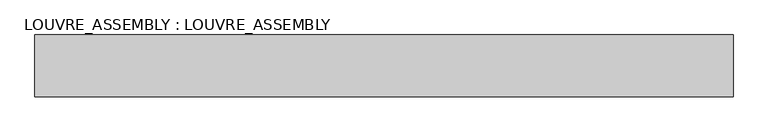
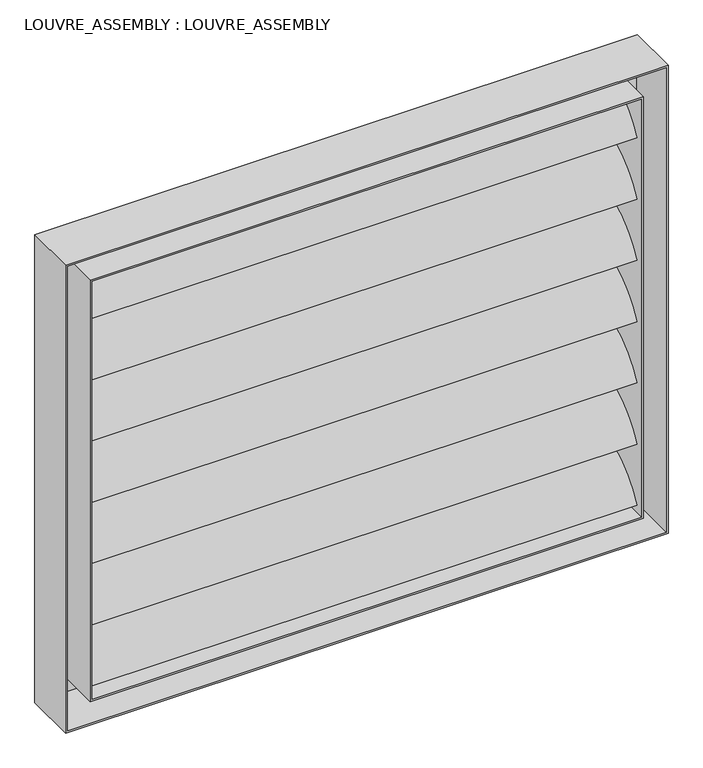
"""IFC4 building model written with IfcOpenShell, lengths in millimetres: plate geometry, LOUVRE_ASSEMBLY : LOUVRE_ASSEMBLY."""

import ifcopenshell
import ifcopenshell.guid

model = None  # the IFC model being written
_history = None  # IfcOwnerHistory: only IFC2X3 demands one
_inside = {}  # id of a spatial element -> (the spatial element, [elements in it])
_under = {}  # id of a project, library or spatial element -> (it, [spatial elements below it])
_declared = {}  # id of a project -> (the project, [libraries it declares])
_typed = {}  # id of a type object -> (the type object, [elements of that type])
_made_of = {}  # id of a material, layer set ... -> (it, [elements and type objects made of it])


def new_model(schema):
    """Start an empty IFC model of exactly this schema.

    Asked for "IFC4X3", IfcOpenShell would pick the latest addendum, in which some entities
    have other attributes; the version numbers below select the first issue.
    IFC2X3 requires an IfcOwnerHistory on every rooted entity: one is made here for all.
    """
    global model, _history
    if schema == "IFC4X3":
        model = ifcopenshell.file(schema_version=(4, 3, 0, 0))
    else:
        model = ifcopenshell.file(schema=schema)
    _inside.clear()
    _under.clear()
    _declared.clear()
    _typed.clear()
    _made_of.clear()
    _history = None
    if model.schema == "IFC2X3":
        org = make("IfcOrganization", Name="unknown")
        user = make(
            "IfcPersonAndOrganization",
            ThePerson=make("IfcPerson", FamilyName="unknown"),
            TheOrganization=org,
        )
        app = make(
            "IfcApplication",
            ApplicationDeveloper=org,
            Version="unknown",
            ApplicationFullName="unknown",
            ApplicationIdentifier="unknown",
        )
        _history = make(
            "IfcOwnerHistory",
            OwningUser=user,
            OwningApplication=app,
            ChangeAction="ADDED",
            CreationDate=0,
        )
    return model


def make(cls, **values):
    """One entity of the class cls with the attributes given. An attribute that is None is left unset."""
    return model.create_entity(
        cls, **{name: value for name, value in values.items() if value is not None}
    )


def rooted(cls, **values):
    """An entity with a GlobalId (a new one), such as an element, a storey or a relation."""
    return make(cls, GlobalId=ifcopenshell.guid.new(), OwnerHistory=_history, **values)


def si_unit(unit_type, name, prefix=None):
    """IfcSIUnit, for example si_unit("LENGTHUNIT", "METRE", prefix="MILLI")."""
    return make("IfcSIUnit", UnitType=unit_type, Prefix=prefix, Name=name)


def assignment(units):
    """IfcUnitAssignment: the units of a project."""
    return None if units is None else make("IfcUnitAssignment", Units=units)


def point(xyz):
    """IfcCartesianPoint."""
    return None if xyz is None else make("IfcCartesianPoint", Coordinates=xyz)


def direction(xyz):
    """IfcDirection."""
    return None if xyz is None else make("IfcDirection", DirectionRatios=xyz)


def frame(location, z_axis=None, x_axis=None):
    """IfcAxis2Placement3D, a coordinate frame: its origin and axes. An axis left out is left unset."""
    return make(
        "IfcAxis2Placement3D",
        Location=point(location),
        Axis=direction(z_axis),
        RefDirection=direction(x_axis),
    )


def frame_2d(location, x_axis=None):
    """IfcAxis2Placement2D, a coordinate frame in the plane: its origin and x axis."""
    return make(
        "IfcAxis2Placement2D", Location=point(location), RefDirection=direction(x_axis)
    )


def origin():
    """The frame at (0, 0, 0) with its axes left unset."""
    return frame((0.0, 0.0, 0.0))


def place(relative_to, where):
    """IfcLocalPlacement: puts the frame where relative to a parent placement (None: the world)."""
    return make(
        "IfcLocalPlacement", PlacementRelTo=relative_to, RelativePlacement=where
    )


def context(
    kind, dimensions, precision=None, world=None, true_north=None, identifier=None
):
    """IfcGeometricRepresentationContext, for example the 3D "Model" context."""
    return make(
        "IfcGeometricRepresentationContext",
        ContextIdentifier=identifier,
        ContextType=kind,
        CoordinateSpaceDimension=dimensions,
        Precision=precision,
        WorldCoordinateSystem=world,
        TrueNorth=true_north,
    )


def project(units=None, contexts=None):
    """IfcProject with its units and contexts."""
    return rooted(
        "IfcProject",
        Name="project",
        RepresentationContexts=contexts,
        UnitsInContext=assignment(units),
    )


def spatial(cls, under=None, at=None, **own):
    """A site, building, storey or space (cls), placed at a placement, below another one or the project."""
    s = rooted(cls, ObjectPlacement=at, **own)
    if under is not None:
        _under.setdefault(under.id(), (under, []))[1].append(s)
    return s


def circle_curve(where, radius):
    """IfcCircle in the frame where."""
    return make("IfcCircle", Position=where, Radius=radius)


def trimmed(basis, trim1, trim2, sense, master):
    """IfcTrimmedCurve: the piece of a basis curve between two trims."""
    return make(
        "IfcTrimmedCurve",
        BasisCurve=basis,
        Trim1=trim1,
        Trim2=trim2,
        SenseAgreement=sense,
        MasterRepresentation=master,
    )


def segment(curve, same_sense, transition):
    """IfcCompositeCurveSegment."""
    return make(
        "IfcCompositeCurveSegment",
        Transition=transition,
        SameSense=same_sense,
        ParentCurve=curve,
    )


def composite_curve(segments, self_intersect=None):
    """IfcCompositeCurve: segments joined end to end."""
    return make("IfcCompositeCurve", Segments=segments, SelfIntersect=self_intersect)


def outline(outer, holes=None, kind="AREA"):
    """IfcArbitraryClosedProfileDef: a profile drawn as a closed curve; with holes, ...WithVoids."""
    if holes is None:
        return make("IfcArbitraryClosedProfileDef", ProfileType=kind, OuterCurve=outer)
    return make(
        "IfcArbitraryProfileDefWithVoids",
        ProfileType=kind,
        OuterCurve=outer,
        InnerCurves=holes,
    )


def extrude(swept, where, along, depth):
    """IfcExtrudedAreaSolid: the profile swept, set in the frame where, extruded along a direction by depth."""
    return make(
        "IfcExtrudedAreaSolid",
        SweptArea=swept,
        Position=where,
        ExtrudedDirection=direction(along),
        Depth=depth,
    )


def faces_of(points, faces, orient=None, outer=None):
    """IfcFace entities. A face is a list of loops; a loop is a list of indices into points, from 0.

    orient and outer hold one flag for each loop. By default every Orientation is true, the
    first loop of a face is its IfcFaceOuterBound and the others are IfcFaceBound.
    """
    made = []
    for i, loops in enumerate(faces):
        bounds = []
        for j, loop in enumerate(loops):
            is_outer = j == 0 if outer is None else outer[i][j]
            bounds.append(
                make(
                    "IfcFaceOuterBound" if is_outer else "IfcFaceBound",
                    Bound=make("IfcPolyLoop", Polygon=[points[k] for k in loop]),
                    Orientation=True if orient is None else orient[i][j],
                )
            )
        made.append(make("IfcFace", Bounds=bounds))
    return made


def faceted_brep(points, faces, orient=None, outer=None, voids=None):
    """IfcFacetedBrep: a solid bounded by flat faces; with voids (closed shells), ...WithVoids."""
    shared = [point(p) for p in points]
    hull = make("IfcClosedShell", CfsFaces=faces_of(shared, faces, orient, outer))
    if voids is None:
        return make("IfcFacetedBrep", Outer=hull)
    return make(
        "IfcFacetedBrepWithVoids",
        Outer=hull,
        Voids=[
            make(cls, CfsFaces=faces_of(shared, fs, o, b)) for cls, fs, o, b in voids
        ],
    )


def shape(context_of_items, identifier, shape_type, items):
    """IfcShapeRepresentation: the items that make up one representation, for example the "Body"."""
    return make(
        "IfcShapeRepresentation",
        ContextOfItems=context_of_items,
        RepresentationIdentifier=identifier,
        RepresentationType=shape_type,
        Items=items,
    )


def source(mapping_origin, context_of_items, identifier, shape_type, items):
    """IfcRepresentationMap: a shape defined once, which mapped items show again and again."""
    return make(
        "IfcRepresentationMap",
        MappingOrigin=mapping_origin,
        MappedRepresentation=shape(context_of_items, identifier, shape_type, items),
    )


def transform(
    local_origin,
    x_axis=None,
    y_axis=None,
    z_axis=None,
    scale=None,
    scale2=None,
    scale3=None,
    uniform=True,
):
    """IfcCartesianTransformationOperator3D, or its non-uniform kind. x_axis, y_axis, z_axis: its Axis1, 2, 3."""
    if uniform:
        return make(
            "IfcCartesianTransformationOperator3D",
            Axis1=direction(x_axis),
            Axis2=direction(y_axis),
            LocalOrigin=point(local_origin),
            Scale=scale,
            Axis3=direction(z_axis),
        )
    return make(
        "IfcCartesianTransformationOperator3DnonUniform",
        Axis1=direction(x_axis),
        Axis2=direction(y_axis),
        LocalOrigin=point(local_origin),
        Scale=scale,
        Axis3=direction(z_axis),
        Scale2=scale2,
        Scale3=scale3,
    )


def mapped(mapping_source, mapping_target):
    """IfcMappedItem: shows the shape of a source again, moved by a transform."""
    return make(
        "IfcMappedItem", MappingSource=mapping_source, MappingTarget=mapping_target
    )


def made_of(thing, what):
    """Note that an element or type object is made of a material, layer set ...; save() writes the relation."""
    if what is not None:
        _made_of.setdefault(what.id(), (what, []))[1].append(thing)
    return thing


def element(
    cls,
    number,
    at=None,
    inside=None,
    cuts=None,
    type_object=None,
    material=None,
    context=None,
    identifier="Body",
    shape_type=None,
    held_by="IfcProductDefinitionShape",
    body=None,
    shapes=None,
    **own,
):
    """One element of the class cls, such as IfcWall. Its Tag is "e" and its number.

    at: its placement. inside: the storey or other place that contains it. cuts: it is an
    opening in that element (IfcRelVoidsElement). A single representation is given by context,
    identifier, shape_type and body (its items); several are given by shapes. held_by: the class
    of the entity that holds the representations. save() writes the other relations.
    """
    e = rooted(cls, Tag="e%d" % number, ObjectPlacement=at, **own)
    if body is not None:
        shapes = [shape(context, identifier, shape_type, body)]
    if shapes is not None:
        e.Representation = make(held_by, Representations=shapes)
    if inside is not None:
        _inside.setdefault(inside.id(), (inside, []))[1].append(e)
    if cuts is not None:
        rooted(
            "IfcRelVoidsElement", RelatingBuildingElement=cuts, RelatedOpeningElement=e
        )
    if type_object is not None:
        _typed.setdefault(type_object.id(), (type_object, []))[1].append(e)
    return made_of(e, material)


def aggregate(whole, parts):
    """IfcRelAggregates: a whole, such as a stair, and the parts it consists of."""
    return rooted("IfcRelAggregates", RelatingObject=whole, RelatedObjects=parts)


def save(model, path):
    """Write the relations noted so far, then the file.

    IfcRelAggregates (storeys below a building ...), IfcRelContainedInSpatialStructure (elements
    in a storey), IfcRelDefinesByType, IfcRelAssociatesMaterial and IfcRelDeclares: one each for
    every whole, place, type object, material and project.
    """
    for whole, parts in _under.values():
        aggregate(whole, parts)
    for where, things in _inside.values():
        rooted(
            "IfcRelContainedInSpatialStructure",
            RelatedElements=things,
            RelatingStructure=where,
        )
    for kind, things in _typed.values():
        rooted("IfcRelDefinesByType", RelatedObjects=things, RelatingType=kind)
    for what, things in _made_of.values():
        rooted("IfcRelAssociatesMaterial", RelatedObjects=things, RelatingMaterial=what)
    for by, libraries in _declared.values():
        rooted("IfcRelDeclares", RelatingContext=by, RelatedDefinitions=libraries)
    model.write(path)


def louvre_assembly_louvre_assembly_c81225b3(model_context):
    return source(origin(), model_context, "Body", "SolidModel", [
        extrude(outline(composite_curve([segment(trimmed(circle_curve(frame_2d((148.492424, 184.007576)), 222.9910312), [point((-53.0330086, 279.4669914))], [point((53.0330086, 385.5330086))], False, "CARTESIAN"), True, "CONTINUOUS"), segment(trimmed(circle_curve(frame_2d((-148.492424, 480.992424)), 222.9910312), [point((53.0330086, 385.5330086))], [point((-53.0330086, 279.4669914))], False, "CARTESIAN"), True, "CONTINUOUS")], self_intersect=False)), frame((-775.0, 0.0, 0.0), z_axis=(1.0, 0.0, 0.0), x_axis=(0.0, 1.0, 0.0)), (0.0, 0.0, 1.0), 1550.0),
        extrude(outline(composite_curve([segment(trimmed(circle_curve(frame_2d((148.492424, 366.507576)), 222.9910312), [point((-53.0330086, 461.9669914))], [point((53.0330086, 568.0330086))], False, "CARTESIAN"), True, "CONTINUOUS"), segment(trimmed(circle_curve(frame_2d((-148.492424, 663.492424)), 222.9910312), [point((53.0330086, 568.0330086))], [point((-53.0330086, 461.9669914))], False, "CARTESIAN"), True, "CONTINUOUS")], self_intersect=False)), frame((-775.0, 0.0, 0.0), z_axis=(1.0, 0.0, 0.0), x_axis=(0.0, 1.0, 0.0)), (0.0, 0.0, 1.0), 1550.0),
        extrude(outline(composite_curve([segment(trimmed(circle_curve(frame_2d((148.492424, 549.007576)), 222.9910312), [point((-53.0330086, 644.4669914))], [point((53.0330086, 750.5330086))], False, "CARTESIAN"), True, "CONTINUOUS"), segment(trimmed(circle_curve(frame_2d((-148.492424, 845.992424)), 222.9910312), [point((53.0330086, 750.5330086))], [point((-53.0330086, 644.4669914))], False, "CARTESIAN"), True, "CONTINUOUS")], self_intersect=False)), frame((-775.0, 0.0, 0.0), z_axis=(1.0, 0.0, 0.0), x_axis=(0.0, 1.0, 0.0)), (0.0, 0.0, 1.0), 1550.0),
        extrude(outline(composite_curve([segment(trimmed(circle_curve(frame_2d((148.492424, 731.507576)), 222.9910312), [point((-53.0330086, 826.9669914))], [point((53.0330086, 933.0330086))], False, "CARTESIAN"), True, "CONTINUOUS"), segment(trimmed(circle_curve(frame_2d((-148.492424, 1028.492424)), 222.9910312), [point((53.0330086, 933.0330086))], [point((-53.0330086, 826.9669914))], False, "CARTESIAN"), True, "CONTINUOUS")], self_intersect=False)), frame((-775.0, 0.0, 0.0), z_axis=(1.0, 0.0, 0.0), x_axis=(0.0, 1.0, 0.0)), (0.0, 0.0, 1.0), 1550.0),
        extrude(outline(composite_curve([segment(trimmed(circle_curve(frame_2d((148.492424, 914.007576)), 222.9910312), [point((-53.0330086, 1009.4669914))], [point((53.0330086, 1115.5330086))], False, "CARTESIAN"), True, "CONTINUOUS"), segment(trimmed(circle_curve(frame_2d((-148.492424, 1210.992424)), 222.9910312), [point((53.0330086, 1115.5330086))], [point((-53.0330086, 1009.4669914))], False, "CARTESIAN"), True, "CONTINUOUS")], self_intersect=False)), frame((-775.0, 0.0, 0.0), z_axis=(1.0, 0.0, 0.0), x_axis=(0.0, 1.0, 0.0)), (0.0, 0.0, 1.0), 1550.0),
        extrude(outline(composite_curve([segment(trimmed(circle_curve(frame_2d((148.492424, 1.507576)), 222.9910312), [point((-53.0330086, 96.9669914))], [point((53.0330086, 203.0330086))], False, "CARTESIAN"), True, "CONTINUOUS"), segment(trimmed(circle_curve(frame_2d((-148.492424, 298.492424)), 222.9910312), [point((53.0330086, 203.0330086))], [point((-53.0330086, 96.9669914))], False, "CARTESIAN"), True, "CONTINUOUS")], self_intersect=False)), frame((-775.0, 0.0, 0.0), z_axis=(1.0, 0.0, 0.0), x_axis=(0.0, 1.0, 0.0)), (0.0, 0.0, 1.0), 1550.0),
        extrude(outline(composite_curve([segment(trimmed(circle_curve(frame_2d((148.492424, 1096.507576)), 222.9910312), [point((-53.0330086, 1191.9669914))], [point((53.0330086, 1298.0330086))], False, "CARTESIAN"), True, "CONTINUOUS"), segment(trimmed(circle_curve(frame_2d((-148.492424, 1393.492424)), 222.9910312), [point((53.0330086, 1298.0330086))], [point((-53.0330086, 1191.9669914))], False, "CARTESIAN"), True, "CONTINUOUS")], self_intersect=False)), frame((-775.0, 0.0, 0.0), z_axis=(1.0, 0.0, 0.0), x_axis=(0.0, 1.0, 0.0)), (0.0, 0.0, 1.0), 1550.0),
        faceted_brep([(-850.0, 75.0, 1395.0), (-850.0, 75.0, 0.0), (-850.0, -75.0, 0.0), (-850.0, -75.0, 1395.0), (-844.375, -75.0, 1389.375), (-844.375, -75.0, 5.625), (-844.375, 69.375, 5.625), (-844.375, 69.375, 1389.375), (-780.625, 69.375, 1325.625), (-780.625, 69.375, 69.375), (-780.625, -75.0, 69.375), (-780.625, -75.0, 1325.625), (-775.0, -75.0, 1320.0), (-775.0, -75.0, 75.0), (-775.0, 75.0, 75.0), (-775.0, 75.0, 1320.0), (850.0, 75.0, 0.0), (850.0, -75.0, 0.0), (844.375, -75.0, 5.625), (844.375, 69.375, 5.625), (780.625, 69.375, 69.375), (780.625, -75.0, 69.375), (775.0, -75.0, 75.0), (775.0, 75.0, 75.0), (850.0, 75.0, 1395.0), (850.0, -75.0, 1395.0), (844.375, -75.0, 1389.375), (844.375, 69.375, 1389.375), (780.625, 69.375, 1325.625), (780.625, -75.0, 1325.625), (775.0, -75.0, 1320.0), (775.0, 75.0, 1320.0)], [[[0, 1, 2, 3]], [[4, 5, 6, 7]], [[8, 9, 10, 11]], [[12, 13, 14, 15]], [[1, 16, 17, 2]], [[5, 18, 19, 6]], [[9, 20, 21, 10]], [[13, 22, 23, 14]], [[16, 24, 25, 17]], [[18, 26, 27, 19]], [[20, 28, 29, 21]], [[22, 30, 31, 23]], [[24, 0, 3, 25]], [[26, 4, 7, 27]], [[28, 8, 11, 29]], [[30, 12, 15, 31]], [[1, 0, 24, 16], [15, 14, 23, 31]], [[11, 10, 21, 29], [13, 12, 30, 22]], [[7, 6, 19, 27], [9, 8, 28, 20]], [[3, 2, 17, 25], [5, 4, 26, 18]]]),
    ])


if __name__ == "__main__":
    model = new_model("IFC4")
    model_context = context("Model", 3, world=origin())
    ifc_project = project(units=[si_unit("LENGTHUNIT", "METRE", prefix="MILLI")], contexts=[model_context])
    site = spatial("IfcSite", under=ifc_project)
    building = spatial("IfcBuilding", under=site)
    placement = place(None, origin())
    louvre_assembly_louvre_assembly_shape = louvre_assembly_louvre_assembly_c81225b3(model_context)
    element("IfcPlate", 1, ObjectType="LOUVRE_ASSEMBLY : LOUVRE_ASSEMBLY", at=placement, inside=building, context=model_context, shape_type="MappedRepresentation", body=[
        mapped(louvre_assembly_louvre_assembly_shape, transform((0.0, 0.0, 0.0), x_axis=(1.0, 0.0, 0.0), y_axis=(0.0, 1.0, 0.0), z_axis=(0.0, 0.0, 1.0))),
    ])
    save(model, "model.ifc")
